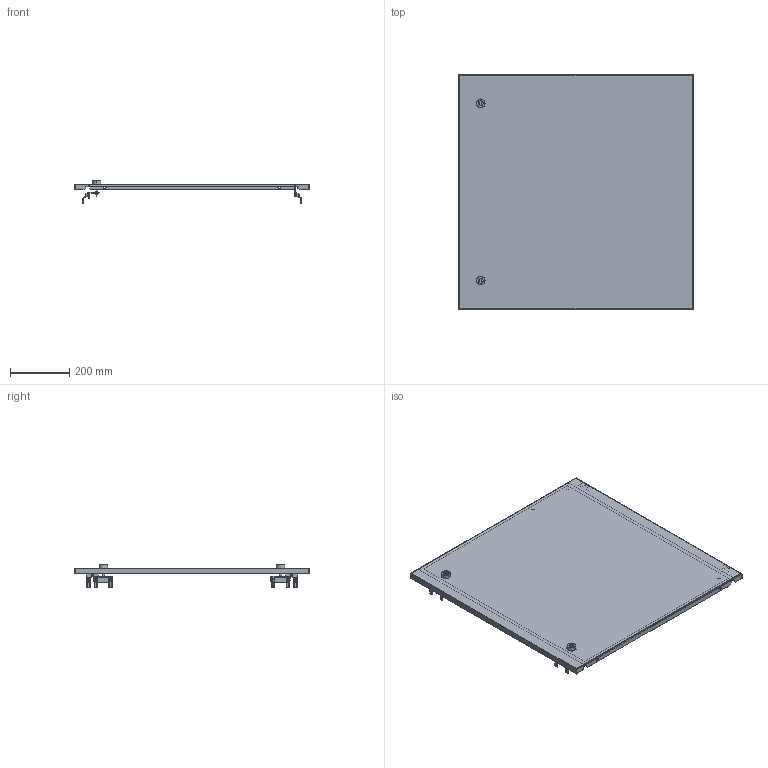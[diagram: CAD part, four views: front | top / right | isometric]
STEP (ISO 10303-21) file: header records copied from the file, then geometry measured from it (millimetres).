
FILE_DESCRIPTION(('CAx-IF Rec.Pracs.---Model Styling and Organization---1.2---2011-12-15','CAx-IF Rec.Pracs.---Geometric and Assembly Validation Properties---4.1---2014-06-16','CAx-IF Rec.Pracs.---PMI Polyline Presentation---2.0---2013-05-24'),'2;1');
FILE_NAME('R5CPMEM8800.stp','2021-05-06T03:58:27+03:00',(''),(''),'STEP Interface 4.4 by CT CoreTechnologie','3D_Evolution4.4 by CT CoreTechnologie','');
FILE_SCHEMA(('AUTOMOTIVE_DESIGN { 1 0 10303 214 1 1 1 1 }'));
Length unit declared in the file: millimetre
Products named in the file (18): R5CPMEM8800; M6 x 16-DIN 7991 ISR_stright; AC00C745; AC00C485; M6 x 16-DIN 7991 ISR_thread; RB.0556.00.00.3 ÑÁ_-42; RB.0556.00.01.1_-42; Ì6õ12-A5100231_thread; AC00C061_AC00C061; Ì6õ12-A5100231_straight; AC00C266; PF 7x14 R5PKEB_0800x0800; RB.0687.00.00.1; MS737-1-1(1); MS737-1-1 Z_ ªàëâ; MS737-1-1 stop_fixed; MS737-1-1(2); RB.0116.00.00.2_-00
Assembly tree (39 placements, depth 3):
  R5CPMEM8800
    M6 x 16-DIN 7991 ISR_stright  x4
    AC00C745  x2
    AC00C485  x8
    M6 x 16-DIN 7991 ISR_thread  x4
    RB.0556.00.00.3 ÑÁ_-42
      RB.0556.00.01.1_-42
      Ì6õ12-A5100231_thread  x2
      AC00C061_AC00C061  x3
      Ì6õ12-A5100231_straight
      AC00C266  x2
      PF 7x14 R5PKEB_0800x0800
    RB.0687.00.00.1  x2
    MS737-1-1(1)
      MS737-1-1 Z_ ªàëâ
      MS737-1-1 stop_fixed
    MS737-1-1(2)
      MS737-1-1 stop_fixed
      MS737-1-1 Z_ ªàëâ
    RB.0116.00.00.2_-00  x2
Bounding box: 794 x 795 x 77.95 mm (x, y, z)
Surface area: 1546443 mm2 (no closed solid volume)
Topology: 0 solids, 62 shells, 2324 faces, 6081 edges, 3863 vertices
Faces by surface type: bspline 868, cylinder 768, plane 688
Entity records: 35448 total; most frequent: CARTESIAN_POINT 11794, ORIENTED_EDGE 4952, DIRECTION 4603, EDGE_CURVE 2476, AXIS2_PLACEMENT_3D 1676, VERTEX_POINT 1599, VECTOR 1251, LINE 1251
